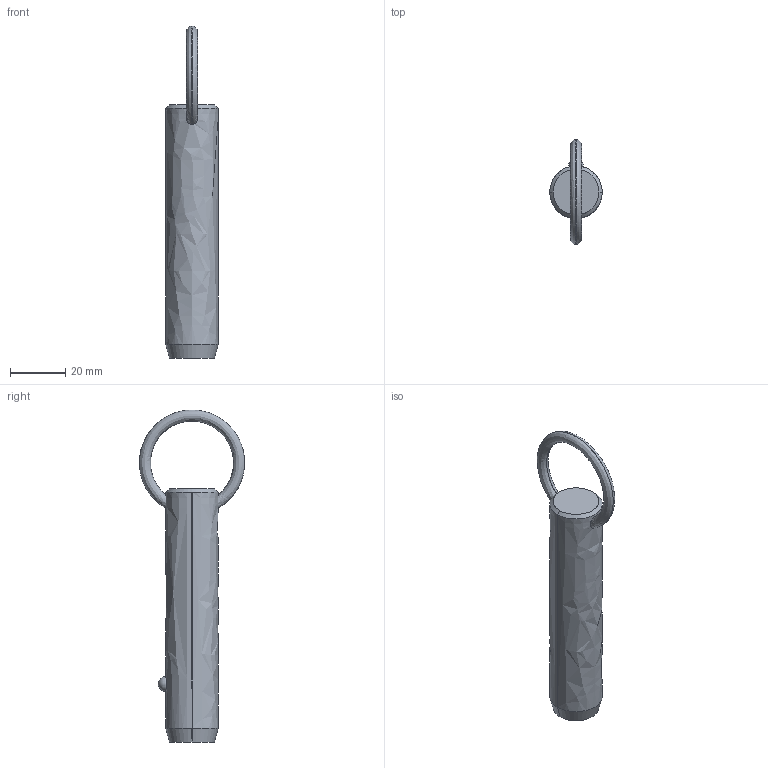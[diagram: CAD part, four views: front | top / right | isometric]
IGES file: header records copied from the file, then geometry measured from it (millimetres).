
Start section: SolidWorks IGES file using analytic representation for surfaces
Global section: file name: C:\Users\liam_\OneDrive\Documents\WORK\Work for WixRoyd\Job Files\J-00019 - Matt Davis CAD Checking\04. CAD Drawings\automotion20190605\P1250.2_v2\P1250.2_v2_20190729_IGES\P1250.075-230.igs; native system: SolidWorks 2017; preprocessor: SolidWorks 2017; author: liam_; date: 190729.234947; units: millimetre
Bounding box: 19 x 38.02 x 120.2 mm (x, y, z)
Surface area: 7000.4 mm2 (no closed solid volume)
Topology: 0 solids, 0 shells, 12 faces, 294 edges, 292 vertices
Faces by surface type: revolution 8, bspline 4
